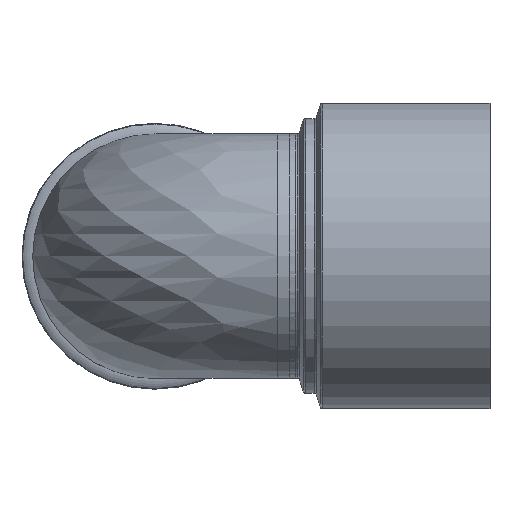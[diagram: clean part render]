
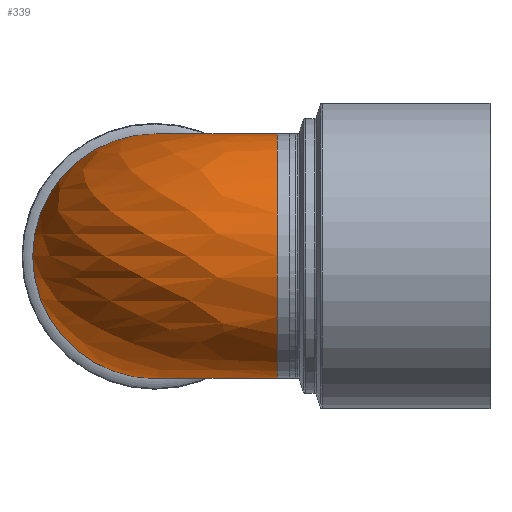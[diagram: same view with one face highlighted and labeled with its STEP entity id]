
A CAD part, top view. The second image highlights one B-rep face of the part: STEP entity #339.
In plain terms, the highlighted free-form (B-spline) face has degree [2, 2] with [9, 9] control points.
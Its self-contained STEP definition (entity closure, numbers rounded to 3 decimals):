
#22=(
BOUNDED_SURFACE()
B_SPLINE_SURFACE(2,2,((#576,#577,#578,#579,#580,#581,#582,#583,#584),(#585,
#586,#587,#588,#589,#590,#591,#592,#593),(#594,#595,#596,#597,#598,#599,
#600,#601,#602),(#603,#604,#605,#606,#607,#608,#609,#610,#611),(#612,#613,
#614,#615,#616,#617,#618,#619,#620),(#621,#622,#623,#624,#625,#626,#627,
#628,#629),(#630,#631,#632,#633,#634,#635,#636,#637,#638),(#639,#640,#641,
#642,#643,#644,#645,#646,#647),(#648,#649,#650,#651,#652,#653,#654,#655,
#656)),.UNSPECIFIED.,.T.,.T.,.F.)
B_SPLINE_SURFACE_WITH_KNOTS((3,2,2,2,3),(3,2,2,2,3),(-3.142,
-1.571,0.,1.571,3.142),(-3.142,
-1.571,0.,1.571,3.142),.UNSPECIFIED.)
GEOMETRIC_REPRESENTATION_ITEM()
RATIONAL_B_SPLINE_SURFACE(((1.,0.707,1.,0.707,1.,
0.707,1.,0.707,1.),(0.707,0.5,0.707,
0.5,0.707,0.5,0.707,0.5,0.707),(1.,
0.707,1.,0.707,1.,0.707,1.,0.707,
1.),(0.707,0.5,0.707,0.5,
0.707,0.5,0.707,0.5,
0.707),(1.,0.707,1.,0.707,1.,0.707,
1.,0.707,1.),(0.707,0.5,0.707,
0.5,0.707,0.5,0.707,
0.5,0.707),(1.,0.707,1.,0.707,
1.,0.707,1.,0.707,1.),(0.707,0.5,0.707,
0.5,0.707,0.5,0.707,0.5,0.707),(1.,
0.707,1.,0.707,1.,0.707,1.,0.707,
1.)))
REPRESENTATION_ITEM($)
SURFACE()
);
#85=FACE_OUTER_BOUND($,#121,.T.);
#121=EDGE_LOOP($,(#259,#260));
#167=CIRCLE($,#383,20.075);
#168=CIRCLE($,#384,20.075);
#195=VERTEX_POINT($,#574);
#222=EDGE_CURVE($,#195,#195,#167,.T.);
#223=EDGE_CURVE($,#195,#195,#168,.T.);
#259=ORIENTED_EDGE($,*,*,#222,.T.);
#260=ORIENTED_EDGE($,*,*,#223,.F.);
#339=ADVANCED_FACE($,(#85),#22,.F.);
#383=AXIS2_PLACEMENT_3D($,#575,#465,#466);
#384=AXIS2_PLACEMENT_3D($,#657,#467,#468);
#465=DIRECTION('center_axis',(-1.,0.,0.));
#466=DIRECTION('ref_axis',(0.,0.,1.));
#467=DIRECTION('center_axis',(0.,0.,-1.));
#468=DIRECTION('ref_axis',(-1.,0.,0.));
#574=CARTESIAN_POINT('',(20.075,0.,139.92));
#575=CARTESIAN_POINT('Origin',(20.075,0.,159.995));
#576=CARTESIAN_POINT('Ctrl Pts',(20.075,0.,139.92));
#577=CARTESIAN_POINT('Ctrl Pts',(20.075,0.,139.92));
#578=CARTESIAN_POINT('Ctrl Pts',(20.075,0.,139.92));
#579=CARTESIAN_POINT('Ctrl Pts',(20.075,0.,139.92));
#580=CARTESIAN_POINT('Ctrl Pts',(20.075,0.,139.92));
#581=CARTESIAN_POINT('Ctrl Pts',(20.075,0.,139.92));
#582=CARTESIAN_POINT('Ctrl Pts',(20.075,0.,139.92));
#583=CARTESIAN_POINT('Ctrl Pts',(20.075,0.,139.92));
#584=CARTESIAN_POINT('Ctrl Pts',(20.075,0.,139.92));
#585=CARTESIAN_POINT('Ctrl Pts',(20.075,-20.075,139.92));
#586=CARTESIAN_POINT('Ctrl Pts',(20.075,-20.075,139.92));
#587=CARTESIAN_POINT('Ctrl Pts',(20.075,-20.075,139.92));
#588=CARTESIAN_POINT('Ctrl Pts',(20.075,-20.075,139.92));
#589=CARTESIAN_POINT('Ctrl Pts',(20.075,-20.075,139.92));
#590=CARTESIAN_POINT('Ctrl Pts',(20.075,-20.075,139.92));
#591=CARTESIAN_POINT('Ctrl Pts',(20.075,-20.075,139.92));
#592=CARTESIAN_POINT('Ctrl Pts',(20.075,-20.075,139.92));
#593=CARTESIAN_POINT('Ctrl Pts',(20.075,-20.075,139.92));
#594=CARTESIAN_POINT('Ctrl Pts',(20.075,-20.075,119.845));
#595=CARTESIAN_POINT('Ctrl Pts',(0.,-20.075,119.845));
#596=CARTESIAN_POINT('Ctrl Pts',(0.,-20.075,139.92));
#597=CARTESIAN_POINT('Ctrl Pts',(0.,-20.075,159.995));
#598=CARTESIAN_POINT('Ctrl Pts',(20.075,-20.075,159.995));
#599=CARTESIAN_POINT('Ctrl Pts',(40.15,-20.075,159.995));
#600=CARTESIAN_POINT('Ctrl Pts',(40.15,-20.075,139.92));
#601=CARTESIAN_POINT('Ctrl Pts',(40.15,-20.075,119.845));
#602=CARTESIAN_POINT('Ctrl Pts',(20.075,-20.075,119.845));
#603=CARTESIAN_POINT('Ctrl Pts',(20.075,-20.075,99.77));
#604=CARTESIAN_POINT('Ctrl Pts',(-20.075,-20.075,99.77));
#605=CARTESIAN_POINT('Ctrl Pts',(-20.075,-20.075,139.92));
#606=CARTESIAN_POINT('Ctrl Pts',(-20.075,-20.075,180.07));
#607=CARTESIAN_POINT('Ctrl Pts',(20.075,-20.075,180.07));
#608=CARTESIAN_POINT('Ctrl Pts',(60.225,-20.075,180.07));
#609=CARTESIAN_POINT('Ctrl Pts',(60.225,-20.075,139.92));
#610=CARTESIAN_POINT('Ctrl Pts',(60.225,-20.075,99.77));
#611=CARTESIAN_POINT('Ctrl Pts',(20.075,-20.075,99.77));
#612=CARTESIAN_POINT('Ctrl Pts',(20.075,0.,99.77));
#613=CARTESIAN_POINT('Ctrl Pts',(-20.075,0.,99.77));
#614=CARTESIAN_POINT('Ctrl Pts',(-20.075,0.,139.92));
#615=CARTESIAN_POINT('Ctrl Pts',(-20.075,0.,180.07));
#616=CARTESIAN_POINT('Ctrl Pts',(20.075,0.,180.07));
#617=CARTESIAN_POINT('Ctrl Pts',(60.225,0.,180.07));
#618=CARTESIAN_POINT('Ctrl Pts',(60.225,0.,139.92));
#619=CARTESIAN_POINT('Ctrl Pts',(60.225,0.,99.77));
#620=CARTESIAN_POINT('Ctrl Pts',(20.075,0.,99.77));
#621=CARTESIAN_POINT('Ctrl Pts',(20.075,20.075,99.77));
#622=CARTESIAN_POINT('Ctrl Pts',(-20.075,20.075,99.77));
#623=CARTESIAN_POINT('Ctrl Pts',(-20.075,20.075,139.92));
#624=CARTESIAN_POINT('Ctrl Pts',(-20.075,20.075,180.07));
#625=CARTESIAN_POINT('Ctrl Pts',(20.075,20.075,180.07));
#626=CARTESIAN_POINT('Ctrl Pts',(60.225,20.075,180.07));
#627=CARTESIAN_POINT('Ctrl Pts',(60.225,20.075,139.92));
#628=CARTESIAN_POINT('Ctrl Pts',(60.225,20.075,99.77));
#629=CARTESIAN_POINT('Ctrl Pts',(20.075,20.075,99.77));
#630=CARTESIAN_POINT('Ctrl Pts',(20.075,20.075,119.845));
#631=CARTESIAN_POINT('Ctrl Pts',(0.,20.075,119.845));
#632=CARTESIAN_POINT('Ctrl Pts',(0.,20.075,139.92));
#633=CARTESIAN_POINT('Ctrl Pts',(0.,20.075,159.995));
#634=CARTESIAN_POINT('Ctrl Pts',(20.075,20.075,159.995));
#635=CARTESIAN_POINT('Ctrl Pts',(40.15,20.075,159.995));
#636=CARTESIAN_POINT('Ctrl Pts',(40.15,20.075,139.92));
#637=CARTESIAN_POINT('Ctrl Pts',(40.15,20.075,119.845));
#638=CARTESIAN_POINT('Ctrl Pts',(20.075,20.075,119.845));
#639=CARTESIAN_POINT('Ctrl Pts',(20.075,20.075,139.92));
#640=CARTESIAN_POINT('Ctrl Pts',(20.075,20.075,139.92));
#641=CARTESIAN_POINT('Ctrl Pts',(20.075,20.075,139.92));
#642=CARTESIAN_POINT('Ctrl Pts',(20.075,20.075,139.92));
#643=CARTESIAN_POINT('Ctrl Pts',(20.075,20.075,139.92));
#644=CARTESIAN_POINT('Ctrl Pts',(20.075,20.075,139.92));
#645=CARTESIAN_POINT('Ctrl Pts',(20.075,20.075,139.92));
#646=CARTESIAN_POINT('Ctrl Pts',(20.075,20.075,139.92));
#647=CARTESIAN_POINT('Ctrl Pts',(20.075,20.075,139.92));
#648=CARTESIAN_POINT('Ctrl Pts',(20.075,0.,139.92));
#649=CARTESIAN_POINT('Ctrl Pts',(20.075,0.,139.92));
#650=CARTESIAN_POINT('Ctrl Pts',(20.075,0.,139.92));
#651=CARTESIAN_POINT('Ctrl Pts',(20.075,0.,139.92));
#652=CARTESIAN_POINT('Ctrl Pts',(20.075,0.,139.92));
#653=CARTESIAN_POINT('Ctrl Pts',(20.075,0.,139.92));
#654=CARTESIAN_POINT('Ctrl Pts',(20.075,0.,139.92));
#655=CARTESIAN_POINT('Ctrl Pts',(20.075,0.,139.92));
#656=CARTESIAN_POINT('Ctrl Pts',(20.075,0.,139.92));
#657=CARTESIAN_POINT('Origin',(0.,0.,139.92));
